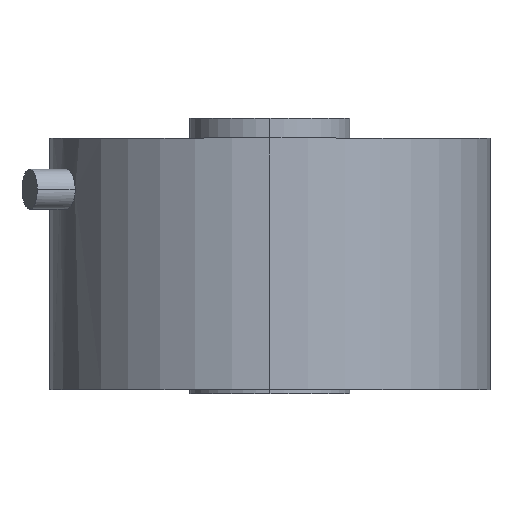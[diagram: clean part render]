
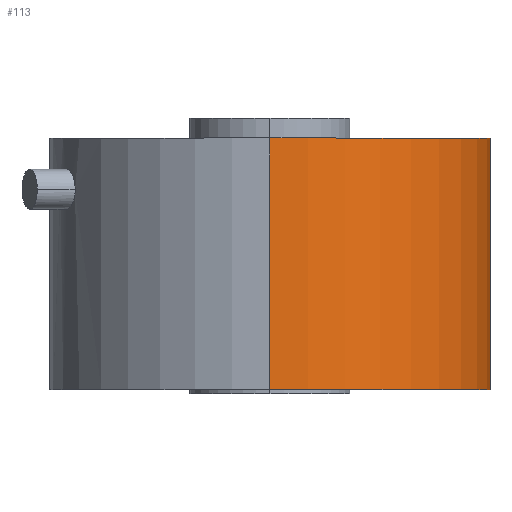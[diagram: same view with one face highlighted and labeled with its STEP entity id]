
A CAD part, top view. The second image highlights one B-rep face of the part: STEP entity #113.
In plain terms, the highlighted cylindrical face has radius 69.85 mm (diameter 139.7 mm), a partial arc.
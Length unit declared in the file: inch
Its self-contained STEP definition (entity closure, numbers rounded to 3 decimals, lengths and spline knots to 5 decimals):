
#16 = AXIS2_PLACEMENT_3D ( 'NONE', #362, #1593, #1439 ) ;
#85 = DIRECTION ( 'NONE',  ( 0., -1., 0. ) ) ;
#87 = CARTESIAN_POINT ( 'NONE',  ( 0., 3.14, -2.75 ) ) ;
#113 = ADVANCED_FACE ( 'NONE', ( #1218 ), #1484, .T. ) ;
#136 = CIRCLE ( 'NONE', #921, 2.75 ) ;
#362 = CARTESIAN_POINT ( 'NONE',  ( 0., 3.14, 0. ) ) ;
#391 = ORIENTED_EDGE ( 'NONE', *, *, #1508, .F. ) ;
#464 = VERTEX_POINT ( 'NONE', #87 ) ;
#470 = EDGE_LOOP ( 'NONE', ( #391, #1349, #1487, #1879 ) ) ;
#609 = VECTOR ( 'NONE', #785, 39.37008 ) ;
#621 = CARTESIAN_POINT ( 'NONE',  ( 0., 3.14, -2.75 ) ) ;
#661 = CARTESIAN_POINT ( 'NONE',  ( 0., 3.14, 2.75 ) ) ;
#709 = DIRECTION ( 'NONE',  ( 0., 0., 1. ) ) ;
#716 = LINE ( 'NONE', #661, #1855 ) ;
#735 = EDGE_CURVE ( 'NONE', #1219, #1946, #716, .T. ) ;
#785 = DIRECTION ( 'NONE',  ( 0., -1., 0. ) ) ;
#858 = CARTESIAN_POINT ( 'NONE',  ( 0., 3.14, 0. ) ) ;
#921 = AXIS2_PLACEMENT_3D ( 'NONE', #858, #1016, #1309 ) ;
#1001 = CIRCLE ( 'NONE', #1804, 2.75 ) ;
#1016 = DIRECTION ( 'NONE',  ( 0., 1., 0. ) ) ;
#1218 = FACE_OUTER_BOUND ( 'NONE', #470, .T. ) ;
#1219 = VERTEX_POINT ( 'NONE', #1862 ) ;
#1263 = CARTESIAN_POINT ( 'NONE',  ( 0., 0., -2.75 ) ) ;
#1285 = EDGE_CURVE ( 'NONE', #464, #1381, #1649, .T. ) ;
#1309 = DIRECTION ( 'NONE',  ( 0., 0., 1. ) ) ;
#1349 = ORIENTED_EDGE ( 'NONE', *, *, #735, .T. ) ;
#1381 = VERTEX_POINT ( 'NONE', #1263 ) ;
#1425 = CARTESIAN_POINT ( 'NONE',  ( 0., 0., 2.75 ) ) ;
#1439 = DIRECTION ( 'NONE',  ( 0., 0., -1. ) ) ;
#1484 = CYLINDRICAL_SURFACE ( 'NONE', #16, 2.75 ) ;
#1487 = ORIENTED_EDGE ( 'NONE', *, *, #1543, .T. ) ;
#1508 = EDGE_CURVE ( 'NONE', #1219, #464, #136, .T. ) ;
#1543 = EDGE_CURVE ( 'NONE', #1946, #1381, #1001, .T. ) ;
#1593 = DIRECTION ( 'NONE',  ( 0., -1., 0. ) ) ;
#1607 = DIRECTION ( 'NONE',  ( 0., 1., 0. ) ) ;
#1649 = LINE ( 'NONE', #621, #609 ) ;
#1789 = CARTESIAN_POINT ( 'NONE',  ( 0., 0., 0. ) ) ;
#1804 = AXIS2_PLACEMENT_3D ( 'NONE', #1789, #1607, #709 ) ;
#1855 = VECTOR ( 'NONE', #85, 39.37008 ) ;
#1862 = CARTESIAN_POINT ( 'NONE',  ( 0., 3.14, 2.75 ) ) ;
#1879 = ORIENTED_EDGE ( 'NONE', *, *, #1285, .F. ) ;
#1946 = VERTEX_POINT ( 'NONE', #1425 ) ;
